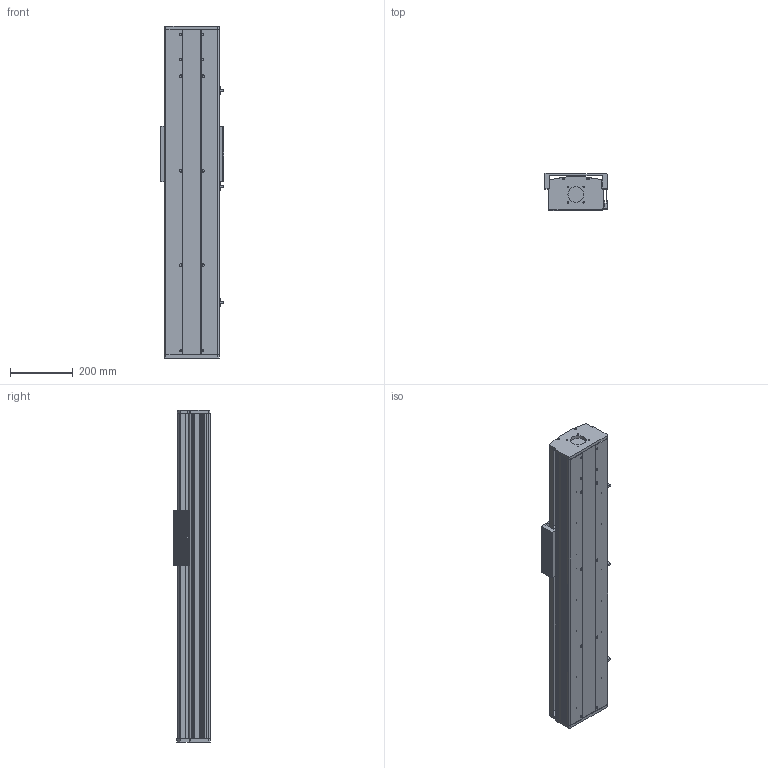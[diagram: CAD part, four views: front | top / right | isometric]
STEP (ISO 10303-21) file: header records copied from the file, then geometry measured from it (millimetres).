
FILE_DESCRIPTION (( 'STEP AP203' ), '1' );
FILE_NAME ('CF175B-C-700-FW.STEP', '2020-07-15T01:53:42', ( 'Micorosoft' ), ( 'Micorosoft' ), 'SwSTEP 2.0', 'SolidWorks 2016', '' );
FILE_SCHEMA (( 'CONFIG_CONTROL_DESIGN' ));
Length unit declared in the file: millimetre
Products named in the file (12): 175-2耜啣; 175B珨极嘐隅釱; 175-2盓傅釱; 嫖萇羲壽; CF175-2蹟譫釱; CF175B-C-700-FW; 175B裔啣-700; 175B臏倰第-700; EGR20絳寢-700; CF175-2賑雄啣; 75-86-95癹弇羲壽覜茼え; CF-EGH20CA賑輸
Assembly tree (17 placements, depth 2):
  CF175B-C-700-FW
    175-2耜啣
    175-2盓傅釱
    CF175-2蹟譫釱
    175B裔啣-700
    175B臏倰第-700
    EGR20絳寢-700  x2
    CF175-2賑雄啣
    75-86-95癹弇羲壽覜茼え
    CF-EGH20CA賑輸  x4
    175B珨极嘐隅釱
    嫖萇羲壽  x3
Bounding box: 201.1 x 116.8 x 1055 mm (x, y, z)
Volume: 8440875 mm3; surface area: 2184973.6 mm2
Topology: 23 solids, 23 shells, 1389 faces, 3630 edges, 2412 vertices
Faces by surface type: plane 719, cylinder 664, cone 4, bspline 2
Entity records: 33570 total; most frequent: DIRECTION 5781, CARTESIAN_POINT 5673, ORIENTED_EDGE 5320, EDGE_CURVE 2660, AXIS2_PLACEMENT_3D 2116, VERTEX_POINT 1768, LINE 1549, VECTOR 1549
